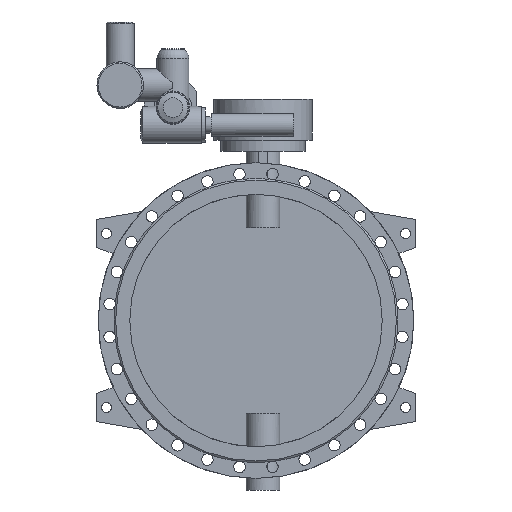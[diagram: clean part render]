
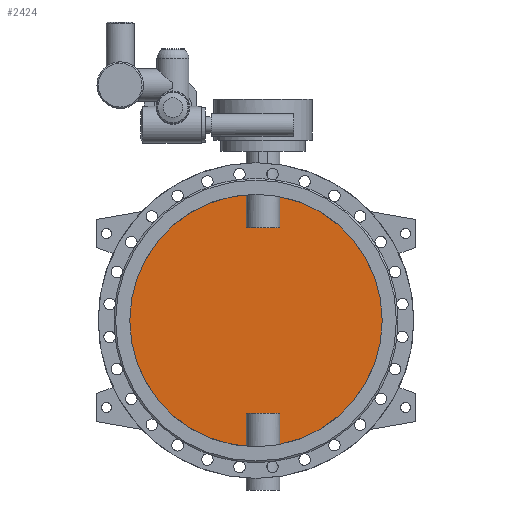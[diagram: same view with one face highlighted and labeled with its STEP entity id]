
A CAD part, front view. The second image highlights one B-rep face of the part: STEP entity #2424.
In plain terms, the highlighted planar face has unit normal (0, -1, 0).
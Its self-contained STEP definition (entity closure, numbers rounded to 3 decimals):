
#2424=ADVANCED_FACE('',(#4799),#4801,.F.);
#4799=FACE_BOUND('',#4800,.T.);
#4800=EDGE_LOOP('',(#6207,#6208,#6209,#6210,#6211,#6212,#6213,#6214));
#4801=PLANE('',#4802);
#4802=AXIS2_PLACEMENT_3D('',#4803,#4804,#4805);
#4803=CARTESIAN_POINT('',(0.,-5.,0.));
#4804=DIRECTION('',(0.,1.,0.));
#4805=DIRECTION('',(1.,0.,0.));
#6207=ORIENTED_EDGE('',*,*,#6912,.T.);
#6208=ORIENTED_EDGE('',*,*,#6917,.T.);
#6209=ORIENTED_EDGE('',*,*,#6918,.T.);
#6210=ORIENTED_EDGE('',*,*,#6919,.T.);
#6211=ORIENTED_EDGE('',*,*,#6914,.T.);
#6212=ORIENTED_EDGE('',*,*,#6920,.T.);
#6213=ORIENTED_EDGE('',*,*,#6921,.T.);
#6214=ORIENTED_EDGE('',*,*,#6922,.T.);
#6912=EDGE_CURVE('',#8141,#8142,#8143,.F.);
#6914=EDGE_CURVE('',#8146,#8144,#8147,.F.);
#6917=EDGE_CURVE('',#8142,#8151,#8152,.T.);
#6918=EDGE_CURVE('',#8151,#8153,#8154,.F.);
#6919=EDGE_CURVE('',#8153,#8146,#8155,.F.);
#6920=EDGE_CURVE('',#8144,#8156,#8157,.F.);
#6921=EDGE_CURVE('',#8156,#8158,#8159,.F.);
#6922=EDGE_CURVE('',#8158,#8141,#8160,.T.);
#8141=VERTEX_POINT('',#16229);
#8142=VERTEX_POINT('',#16230);
#8143=CIRCLE('',#16231,450.);
#8144=VERTEX_POINT('',#16235);
#8146=VERTEX_POINT('',#16325);
#8147=CIRCLE('',#16326,450.);
#8151=VERTEX_POINT('',#16441);
#8152=LINE('',#16442,#16443);
#8153=VERTEX_POINT('',#16445);
#8154=LINE('',#16446,#16447);
#8155=LINE('',#16449,#16450);
#8156=VERTEX_POINT('',#16452);
#8157=LINE('',#16453,#16454);
#8158=VERTEX_POINT('',#16456);
#8159=LINE('',#16457,#16458);
#8160=LINE('',#16460,#16461);
#16229=CARTESIAN_POINT('',(84.791,-5.,-441.939));
#16230=CARTESIAN_POINT('',(84.791,-5.,441.939));
#16231=AXIS2_PLACEMENT_3D('',#16232,#16233,#16234);
#16232=CARTESIAN_POINT('',(0.,-5.,0.));
#16233=DIRECTION('',(0.,1.,0.));
#16234=DIRECTION('',(0.188,0.,0.982));
#16235=CARTESIAN_POINT('',(-34.791,-5.,-448.653));
#16325=CARTESIAN_POINT('',(-34.791,-5.,448.653));
#16326=AXIS2_PLACEMENT_3D('',#16327,#16328,#16329);
#16327=CARTESIAN_POINT('',(0.,-5.,0.));
#16328=DIRECTION('',(0.,1.,0.));
#16329=DIRECTION('',(-0.077,0.,-0.997));
#16441=CARTESIAN_POINT('',(84.791,-5.,330.));
#16442=CARTESIAN_POINT('',(84.791,-5.,441.939));
#16443=VECTOR('',#16444,1.);
#16444=DIRECTION('',(0.,0.,-1.));
#16445=CARTESIAN_POINT('',(-34.791,-5.,330.));
#16446=CARTESIAN_POINT('',(-34.791,-5.,330.));
#16447=VECTOR('',#16448,1.);
#16448=DIRECTION('',(1.,0.,0.));
#16449=CARTESIAN_POINT('',(-34.791,-5.,448.653));
#16450=VECTOR('',#16451,1.);
#16451=DIRECTION('',(0.,0.,-1.));
#16452=CARTESIAN_POINT('',(-34.791,-5.,-330.));
#16453=CARTESIAN_POINT('',(-34.791,-5.,-330.));
#16454=VECTOR('',#16455,1.);
#16455=DIRECTION('',(0.,0.,-1.));
#16456=CARTESIAN_POINT('',(84.791,-5.,-330.));
#16457=CARTESIAN_POINT('',(84.791,-5.,-330.));
#16458=VECTOR('',#16459,1.);
#16459=DIRECTION('',(-1.,0.,0.));
#16460=CARTESIAN_POINT('',(84.791,-5.,-330.));
#16461=VECTOR('',#16462,1.);
#16462=DIRECTION('',(0.,0.,-1.));
